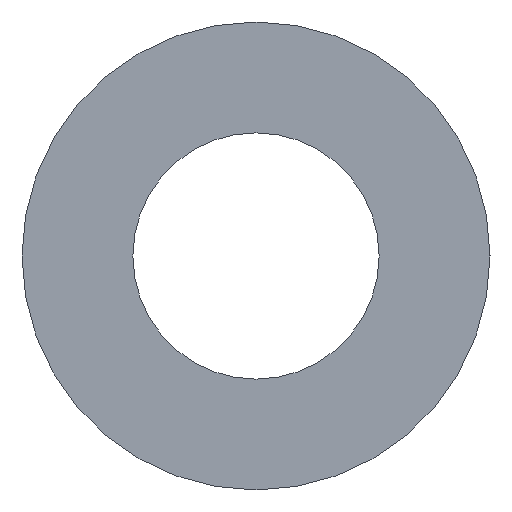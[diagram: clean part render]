
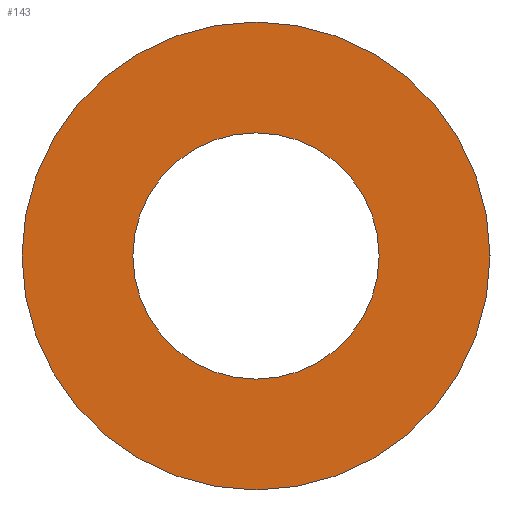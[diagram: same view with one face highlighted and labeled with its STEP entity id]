
A CAD part, left-side view. The second image highlights one B-rep face of the part: STEP entity #143.
In plain terms, the highlighted planar face has unit normal (-1, 0, 0).
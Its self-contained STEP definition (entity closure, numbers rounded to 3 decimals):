
#20=PLANE('',#174);
#32=ORIENTED_EDGE('',*,*,#56,.T.);
#33=ORIENTED_EDGE('',*,*,#55,.F.);
#55=EDGE_CURVE('',#67,#67,#79,.T.);
#56=EDGE_CURVE('',#68,#68,#80,.T.);
#67=VERTEX_POINT('',#254);
#68=VERTEX_POINT('',#257);
#79=CIRCLE('',#173,9.5);
#80=CIRCLE('',#175,5.);
#92=EDGE_LOOP('',(#32));
#93=EDGE_LOOP('',(#33));
#116=FACE_BOUND('',#92,.T.);
#117=FACE_BOUND('',#93,.T.);
#143=ADVANCED_FACE('',(#116,#117),#20,.F.);
#173=AXIS2_PLACEMENT_3D('',#253,#207,#208);
#174=AXIS2_PLACEMENT_3D('',#255,#209,#210);
#175=AXIS2_PLACEMENT_3D('',#256,#211,#212);
#207=DIRECTION('',(1.,0.,0.));
#208=DIRECTION('',(0.,0.,-1.));
#209=DIRECTION('',(1.,0.,0.));
#210=DIRECTION('',(0.,0.,-1.));
#211=DIRECTION('',(1.,0.,0.));
#212=DIRECTION('',(0.,0.,-1.));
#253=CARTESIAN_POINT('',(-27.5,0.,0.));
#254=CARTESIAN_POINT('',(-27.5,0.,-9.5));
#255=CARTESIAN_POINT('',(-27.5,0.,0.));
#256=CARTESIAN_POINT('',(-27.5,0.,0.));
#257=CARTESIAN_POINT('',(-27.5,0.,-5.));
